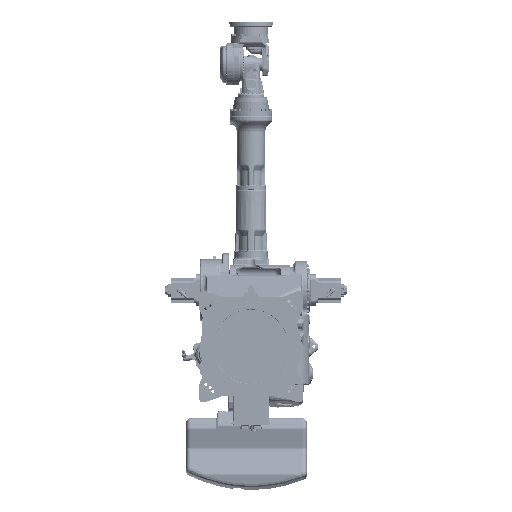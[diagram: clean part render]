
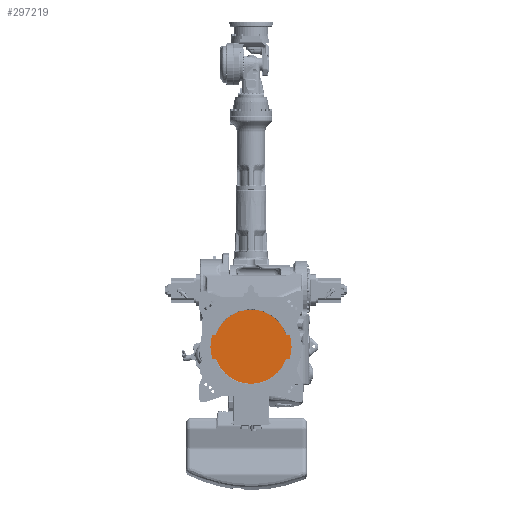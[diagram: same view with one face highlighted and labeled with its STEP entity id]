
A CAD part, front view. The second image highlights one B-rep face of the part: STEP entity #297219.
In plain terms, the highlighted planar face has unit normal (0, -1, 0) as drawn and (0, 0, -1) by its records, which use the part's own axes.
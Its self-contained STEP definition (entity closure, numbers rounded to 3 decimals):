
#1680 = CIRCLE ( 'NONE', #294026, 288. ) ;
#35328 = DIRECTION ( 'NONE',  ( 0., 1., 0. ) ) ;
#37810 = AXIS2_PLACEMENT_3D ( 'NONE', #292092, #674166, #354439 ) ;
#37985 = ORIENTED_EDGE ( 'NONE', *, *, #200197, .F. ) ;
#38628 = LINE ( 'NONE', #653715, #266326 ) ;
#40080 = CARTESIAN_POINT ( 'NONE',  ( 85., -248.886, 5. ) ) ;
#60949 = VERTEX_POINT ( 'NONE', #212066 ) ;
#75040 = CARTESIAN_POINT ( 'NONE',  ( -85., -248.886, 5. ) ) ;
#87125 = CARTESIAN_POINT ( 'NONE',  ( -371.115, 151.171, 5. ) ) ;
#102087 = VECTOR ( 'NONE', #297166, 1000. ) ;
#102558 = VERTEX_POINT ( 'NONE', #225130 ) ;
#106025 = CARTESIAN_POINT ( 'NONE',  ( -85., 0., 5. ) ) ;
#119527 = ORIENTED_EDGE ( 'NONE', *, *, #160166, .F. ) ;
#160166 = EDGE_CURVE ( 'NONE', #226263, #585602, #802786, .T. ) ;
#185842 = CARTESIAN_POINT ( 'NONE',  ( -85., 0., 5. ) ) ;
#195750 = CARTESIAN_POINT ( 'NONE',  ( -85., 248.886, 5. ) ) ;
#200197 = EDGE_CURVE ( 'NONE', #585602, #102558, #791153, .T. ) ;
#201193 = DIRECTION ( 'NONE',  ( 1., 0., 0. ) ) ;
#212066 = CARTESIAN_POINT ( 'NONE',  ( -85., 275.171, 5. ) ) ;
#217294 = ORIENTED_EDGE ( 'NONE', *, *, #387301, .F. ) ;
#225130 = CARTESIAN_POINT ( 'NONE',  ( 85., 275.171, 5. ) ) ;
#226263 = VERTEX_POINT ( 'NONE', #609580 ) ;
#226583 = EDGE_LOOP ( 'NONE', ( #343651, #677714, #379902, #658940, #217294, #37985, #119527, #257865 ) ) ;
#248148 =( BOUNDED_CURVE ( )  B_SPLINE_CURVE ( 3, ( #543595, #87125, #294465, #539558 ),
 .UNSPECIFIED., .F., .T. ) 
 B_SPLINE_CURVE_WITH_KNOTS ( ( 4, 4 ),
 ( 0., 1. ),
 .UNSPECIFIED. ) 
 CURVE ( )  GEOMETRIC_REPRESENTATION_ITEM ( )  RATIONAL_B_SPLINE_CURVE ( ( 1., 0.549, 0.549, 1. ) ) 
 REPRESENTATION_ITEM ( '' )  );
#253197 = CARTESIAN_POINT ( 'NONE',  ( 0., 0., 5. ) ) ;
#255381 = DIRECTION ( 'NONE',  ( 0., 0., 1. ) ) ;
#257865 = ORIENTED_EDGE ( 'NONE', *, *, #538517, .F. ) ;
#263737 = CIRCLE ( 'NONE', #37810, 288. ) ;
#266326 = VECTOR ( 'NONE', #545287, 1000. ) ;
#275854 = VERTEX_POINT ( 'NONE', #75040 ) ;
#288415 = EDGE_CURVE ( 'NONE', #333982, #491173, #1680, .T. ) ;
#292092 = CARTESIAN_POINT ( 'NONE',  ( 0., 0., 5. ) ) ;
#294026 = AXIS2_PLACEMENT_3D ( 'NONE', #253197, #759671, #643480 ) ;
#294465 = CARTESIAN_POINT ( 'NONE',  ( -371.115, -151.171, 5. ) ) ;
#297166 = DIRECTION ( 'NONE',  ( 0., -1., 0. ) ) ;
#297219 = ADVANCED_FACE ( 'NONE', ( #769957 ), #820102, .F. ) ;
#309170 = EDGE_CURVE ( 'NONE', #60949, #394241, #749497, .T. ) ;
#333982 = VERTEX_POINT ( 'NONE', #709696 ) ;
#343651 = ORIENTED_EDGE ( 'NONE', *, *, #288415, .F. ) ;
#346049 = CARTESIAN_POINT ( 'NONE',  ( 85., 248.886, 5. ) ) ;
#354439 = DIRECTION ( 'NONE',  ( 1., 0., 0. ) ) ;
#356079 = CARTESIAN_POINT ( 'NONE',  ( 85., -275.171, 5. ) ) ;
#379902 = ORIENTED_EDGE ( 'NONE', *, *, #414724, .F. ) ;
#387301 = EDGE_CURVE ( 'NONE', #102558, #60949, #263737, .T. ) ;
#394241 = VERTEX_POINT ( 'NONE', #195750 ) ;
#395190 = AXIS2_PLACEMENT_3D ( 'NONE', #516735, #255381, #201193 ) ;
#414724 = EDGE_CURVE ( 'NONE', #394241, #275854, #248148, .T. ) ;
#431122 = DIRECTION ( 'NONE',  ( 0., -1., 0. ) ) ;
#434418 = CARTESIAN_POINT ( 'NONE',  ( 371.115, -151.171, 5. ) ) ;
#491173 = VERTEX_POINT ( 'NONE', #356079 ) ;
#516735 = CARTESIAN_POINT ( 'NONE',  ( 0., 0., 5. ) ) ;
#538517 = EDGE_CURVE ( 'NONE', #491173, #226263, #38628, .T. ) ;
#538681 = VECTOR ( 'NONE', #431122, 1000. ) ;
#539558 = CARTESIAN_POINT ( 'NONE',  ( -85., -248.886, 5. ) ) ;
#543595 = CARTESIAN_POINT ( 'NONE',  ( -85., 248.886, 5. ) ) ;
#545287 = DIRECTION ( 'NONE',  ( 0., 1., 0. ) ) ;
#564913 = EDGE_CURVE ( 'NONE', #275854, #333982, #754728, .T. ) ;
#585602 = VERTEX_POINT ( 'NONE', #346049 ) ;
#609580 = CARTESIAN_POINT ( 'NONE',  ( 85., -248.886, 5. ) ) ;
#621346 = CARTESIAN_POINT ( 'NONE',  ( 85., 248.886, 5. ) ) ;
#643480 = DIRECTION ( 'NONE',  ( 1., 0., 0. ) ) ;
#653715 = CARTESIAN_POINT ( 'NONE',  ( 85., 0., 5. ) ) ;
#658940 = ORIENTED_EDGE ( 'NONE', *, *, #309170, .F. ) ;
#674166 = DIRECTION ( 'NONE',  ( 0., 0., 1. ) ) ;
#677714 = ORIENTED_EDGE ( 'NONE', *, *, #564913, .F. ) ;
#683691 = CARTESIAN_POINT ( 'NONE',  ( 371.115, 151.171, 5. ) ) ;
#709696 = CARTESIAN_POINT ( 'NONE',  ( -85., -275.171, 5. ) ) ;
#712988 = VECTOR ( 'NONE', #35328, 1000. ) ;
#749497 = LINE ( 'NONE', #106025, #102087 ) ;
#754728 = LINE ( 'NONE', #185842, #538681 ) ;
#759671 = DIRECTION ( 'NONE',  ( 0., 0., 1. ) ) ;
#769957 = FACE_OUTER_BOUND ( 'NONE', #226583, .T. ) ;
#791153 = LINE ( 'NONE', #799329, #712988 ) ;
#799329 = CARTESIAN_POINT ( 'NONE',  ( 85., 0., 5. ) ) ;
#802786 =( BOUNDED_CURVE ( )  B_SPLINE_CURVE ( 3, ( #40080, #434418, #683691, #621346 ),
 .UNSPECIFIED., .F., .F. ) 
 B_SPLINE_CURVE_WITH_KNOTS ( ( 4, 4 ),
 ( 0., 1. ),
 .UNSPECIFIED. ) 
 CURVE ( )  GEOMETRIC_REPRESENTATION_ITEM ( )  RATIONAL_B_SPLINE_CURVE ( ( 1., 0.549, 0.549, 1. ) ) 
 REPRESENTATION_ITEM ( '' )  );
#820102 = PLANE ( 'NONE',  #395190 ) ;
